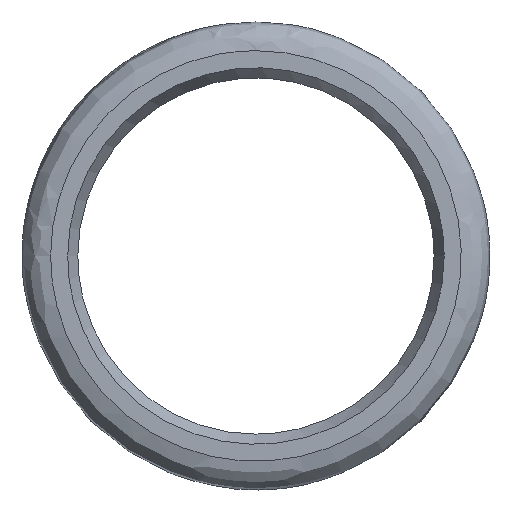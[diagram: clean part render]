
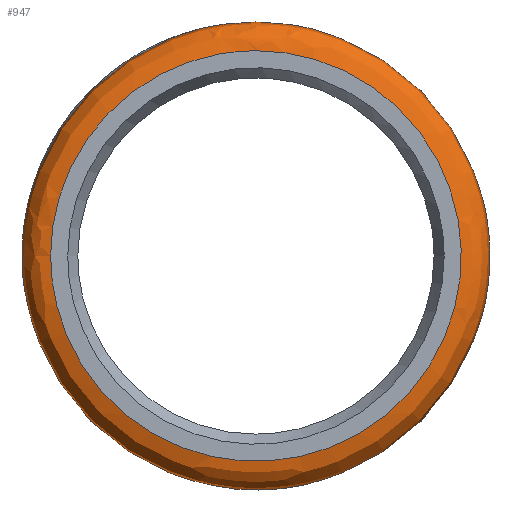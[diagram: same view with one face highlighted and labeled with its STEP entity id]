
A CAD part, left-side view. The second image highlights one B-rep face of the part: STEP entity #947.
In plain terms, the highlighted free-form (B-spline) face has degree [2, 2] with [5, 9] control points.
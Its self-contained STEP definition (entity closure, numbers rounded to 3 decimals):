
#901 = EDGE_CURVE('',#902,#904,#906,.T.);
#902 = VERTEX_POINT('',#903);
#903 = CARTESIAN_POINT('',(0.,41.5,0.));
#904 = VERTEX_POINT('',#905);
#905 = CARTESIAN_POINT('',(0.,0.,41.5));
#906 = ( BOUNDED_CURVE() B_SPLINE_CURVE(2,(#907,#908,#909),
.UNSPECIFIED.,.F.,.F.) B_SPLINE_CURVE_WITH_KNOTS((3,3),(0.,
1.571),.PIECEWISE_BEZIER_KNOTS.) CURVE() 
GEOMETRIC_REPRESENTATION_ITEM() RATIONAL_B_SPLINE_CURVE((1.,
0.707,1.)) REPRESENTATION_ITEM('') );
#907 = CARTESIAN_POINT('',(0.,41.5,0.));
#908 = CARTESIAN_POINT('',(0.,41.5,41.5));
#909 = CARTESIAN_POINT('',(0.,0.,41.5));
#911 = EDGE_CURVE('',#904,#902,#912,.T.);
#912 = ( BOUNDED_CURVE() B_SPLINE_CURVE(2,(#913,#914,#915,#916,#917,#918
,#919),.UNSPECIFIED.,.F.,.F.) B_SPLINE_CURVE_WITH_KNOTS((3,2,2,3),(
    1.571,3.142,4.712,6.283),
.UNSPECIFIED.) CURVE() GEOMETRIC_REPRESENTATION_ITEM() 
RATIONAL_B_SPLINE_CURVE((1.,0.707,1.,0.707,1.,
0.707,1.)) REPRESENTATION_ITEM('') );
#913 = CARTESIAN_POINT('',(0.,0.,41.5));
#914 = CARTESIAN_POINT('',(0.,-41.5,41.5));
#915 = CARTESIAN_POINT('',(0.,-41.5,0.));
#916 = CARTESIAN_POINT('',(0.,-41.5,-41.5));
#917 = CARTESIAN_POINT('',(0.,0.,-41.5));
#918 = CARTESIAN_POINT('',(0.,41.5,-41.5));
#919 = CARTESIAN_POINT('',(0.,41.5,0.));
#947 = ADVANCED_FACE('',(#948),#987,.T.);
#948 = FACE_BOUND('',#949,.T.);
#949 = EDGE_LOOP('',(#950,#960,#970,#976,#984,#985,#986));
#950 = ORIENTED_EDGE('',*,*,#951,.F.);
#951 = EDGE_CURVE('',#952,#954,#956,.T.);
#952 = VERTEX_POINT('',#953);
#953 = CARTESIAN_POINT('',(9.901,45.601,0.));
#954 = VERTEX_POINT('',#955);
#955 = CARTESIAN_POINT('',(9.901,0.,45.601));
#956 = ( BOUNDED_CURVE() B_SPLINE_CURVE(2,(#957,#958,#959),
.UNSPECIFIED.,.F.,.F.) B_SPLINE_CURVE_WITH_KNOTS((3,3),(0.,
1.571),.PIECEWISE_BEZIER_KNOTS.) CURVE() 
GEOMETRIC_REPRESENTATION_ITEM() RATIONAL_B_SPLINE_CURVE((1.,
0.707,1.)) REPRESENTATION_ITEM('') );
#957 = CARTESIAN_POINT('',(9.901,45.601,0.));
#958 = CARTESIAN_POINT('',(9.901,45.601,
    45.601));
#959 = CARTESIAN_POINT('',(9.901,0.,
    45.601));
#960 = ORIENTED_EDGE('',*,*,#961,.F.);
#961 = EDGE_CURVE('',#962,#952,#964,.T.);
#962 = VERTEX_POINT('',#963);
#963 = CARTESIAN_POINT('',(9.901,-45.601,0.));
#964 = ( BOUNDED_CURVE() B_SPLINE_CURVE(2,(#965,#966,#967,#968,#969),
.UNSPECIFIED.,.F.,.F.) B_SPLINE_CURVE_WITH_KNOTS((3,2,3),(3.142,
4.712,6.283),.PIECEWISE_BEZIER_KNOTS.) CURVE() 
GEOMETRIC_REPRESENTATION_ITEM() RATIONAL_B_SPLINE_CURVE((1.,
0.707,1.,0.707,1.)) REPRESENTATION_ITEM('') );
#965 = CARTESIAN_POINT('',(9.901,-45.601,
    0.));
#966 = CARTESIAN_POINT('',(9.901,-45.601,
    -45.601));
#967 = CARTESIAN_POINT('',(9.901,0.,
    -45.601));
#968 = CARTESIAN_POINT('',(9.901,45.601,
    -45.601));
#969 = CARTESIAN_POINT('',(9.901,45.601,
    0.));
#970 = ORIENTED_EDGE('',*,*,#971,.F.);
#971 = EDGE_CURVE('',#954,#962,#972,.T.);
#972 = ( BOUNDED_CURVE() B_SPLINE_CURVE(2,(#973,#974,#975),
.UNSPECIFIED.,.F.,.F.) B_SPLINE_CURVE_WITH_KNOTS((3,3),(1.571,
3.142),.PIECEWISE_BEZIER_KNOTS.) CURVE() 
GEOMETRIC_REPRESENTATION_ITEM() RATIONAL_B_SPLINE_CURVE((1.,
0.707,1.)) REPRESENTATION_ITEM('') );
#973 = CARTESIAN_POINT('',(9.901,0.,
    45.601));
#974 = CARTESIAN_POINT('',(9.901,-45.601,
    45.601));
#975 = CARTESIAN_POINT('',(9.901,-45.601,
    0.));
#976 = ORIENTED_EDGE('',*,*,#977,.T.);
#977 = EDGE_CURVE('',#954,#904,#978,.T.);
#978 = ( BOUNDED_CURVE() B_SPLINE_CURVE(2,(#979,#980,#981,#982,#983),
.UNSPECIFIED.,.F.,.F.) B_SPLINE_CURVE_WITH_KNOTS((3,2,3),(
-0.785,0.393,1.571),.UNSPECIFIED.) CURVE() 
GEOMETRIC_REPRESENTATION_ITEM() RATIONAL_B_SPLINE_CURVE((1.,
0.831,1.,0.831,1.)) REPRESENTATION_ITEM('') );
#979 = CARTESIAN_POINT('',(9.901,0.,45.601));
#980 = CARTESIAN_POINT('',(7.161,0.,48.342));
#981 = CARTESIAN_POINT('',(3.58,0.,46.859));
#982 = CARTESIAN_POINT('',(0.,0.,45.375));
#983 = CARTESIAN_POINT('',(0.,0.,41.5));
#984 = ORIENTED_EDGE('',*,*,#911,.T.);
#985 = ORIENTED_EDGE('',*,*,#901,.T.);
#986 = ORIENTED_EDGE('',*,*,#977,.F.);
#987 = ( BOUNDED_SURFACE() B_SPLINE_SURFACE(2,2,(
    (#988,#989,#990,#991,#992,#993,#994,#995,#996)
    ,(#997,#998,#999,#1000,#1001,#1002,#1003,#1004,#1005)
    ,(#1006,#1007,#1008,#1009,#1010,#1011,#1012,#1013,#1014)
    ,(#1015,#1016,#1017,#1018,#1019,#1020,#1021,#1022,#1023)
    ,(#1024,#1025,#1026,#1027,#1028,#1029,#1030,#1031,#1032
)),.UNSPECIFIED.,.F.,.T.,.F.) B_SPLINE_SURFACE_WITH_KNOTS((3,2,3),(1,2,2
    ,2,2,2,1),(-1.571,-0.393,0.785),(
    -4.712,-3.142,-1.571,0.,1.571,
    3.142,4.712),.UNSPECIFIED.) 
GEOMETRIC_REPRESENTATION_ITEM() RATIONAL_B_SPLINE_SURFACE((
    (1.,0.707,1.,0.707,1.,0.707,1.
      ,0.707,1.)
    ,(0.831,0.588,0.831,0.588
      ,0.831,0.588,0.831,0.588
      ,0.831)
    ,(1.,0.707,1.,0.707,1.,0.707,1.
      ,0.707,1.)
    ,(0.831,0.588,0.831,0.588
      ,0.831,0.588,0.831,0.588
      ,0.831)
    ,(1.,0.707,1.,0.707,1.,0.707,1.
,0.707,1.))) REPRESENTATION_ITEM('') SURFACE() );
#988 = CARTESIAN_POINT('',(9.901,0.,45.601));
#989 = CARTESIAN_POINT('',(9.901,-45.601,
    45.601));
#990 = CARTESIAN_POINT('',(9.901,-45.601,0.));
#991 = CARTESIAN_POINT('',(9.901,-45.601,
    -45.601));
#992 = CARTESIAN_POINT('',(9.901,0.,-45.601));
#993 = CARTESIAN_POINT('',(9.901,45.601,
    -45.601));
#994 = CARTESIAN_POINT('',(9.901,45.601,0.));
#995 = CARTESIAN_POINT('',(9.901,45.601,
    45.601));
#996 = CARTESIAN_POINT('',(9.901,0.,45.601));
#997 = CARTESIAN_POINT('',(7.161,0.,48.342));
#998 = CARTESIAN_POINT('',(7.161,-48.342,
    48.342));
#999 = CARTESIAN_POINT('',(7.161,-48.342,0.));
#1000 = CARTESIAN_POINT('',(7.161,-48.342,
    -48.342));
#1001 = CARTESIAN_POINT('',(7.161,0.,-48.342));
#1002 = CARTESIAN_POINT('',(7.161,48.342,
    -48.342));
#1003 = CARTESIAN_POINT('',(7.161,48.342,0.));
#1004 = CARTESIAN_POINT('',(7.161,48.342,
    48.342));
#1005 = CARTESIAN_POINT('',(7.161,0.,48.342));
#1006 = CARTESIAN_POINT('',(3.58,0.,46.859));
#1007 = CARTESIAN_POINT('',(3.58,-46.859,
    46.859));
#1008 = CARTESIAN_POINT('',(3.58,-46.859,0.));
#1009 = CARTESIAN_POINT('',(3.58,-46.859,
    -46.859));
#1010 = CARTESIAN_POINT('',(3.58,0.,-46.859));
#1011 = CARTESIAN_POINT('',(3.58,46.859,
    -46.859));
#1012 = CARTESIAN_POINT('',(3.58,46.859,0.));
#1013 = CARTESIAN_POINT('',(3.58,46.859,
    46.859));
#1014 = CARTESIAN_POINT('',(3.58,0.,46.859));
#1015 = CARTESIAN_POINT('',(0.,0.,45.375));
#1016 = CARTESIAN_POINT('',(0.,-45.375,
    45.375));
#1017 = CARTESIAN_POINT('',(0.,-45.375,0.));
#1018 = CARTESIAN_POINT('',(0.,-45.375,
    -45.375));
#1019 = CARTESIAN_POINT('',(0.,0.,-45.375));
#1020 = CARTESIAN_POINT('',(0.,45.375,
    -45.375));
#1021 = CARTESIAN_POINT('',(0.,45.375,0.));
#1022 = CARTESIAN_POINT('',(0.,45.375,
    45.375));
#1023 = CARTESIAN_POINT('',(0.,0.,45.375));
#1024 = CARTESIAN_POINT('',(0.,0.,41.5));
#1025 = CARTESIAN_POINT('',(0.,-41.5,41.5));
#1026 = CARTESIAN_POINT('',(0.,-41.5,0.));
#1027 = CARTESIAN_POINT('',(0.,-41.5,-41.5));
#1028 = CARTESIAN_POINT('',(0.,0.,-41.5));
#1029 = CARTESIAN_POINT('',(0.,41.5,-41.5));
#1030 = CARTESIAN_POINT('',(0.,41.5,0.));
#1031 = CARTESIAN_POINT('',(0.,41.5,41.5));
#1032 = CARTESIAN_POINT('',(0.,0.,41.5));
